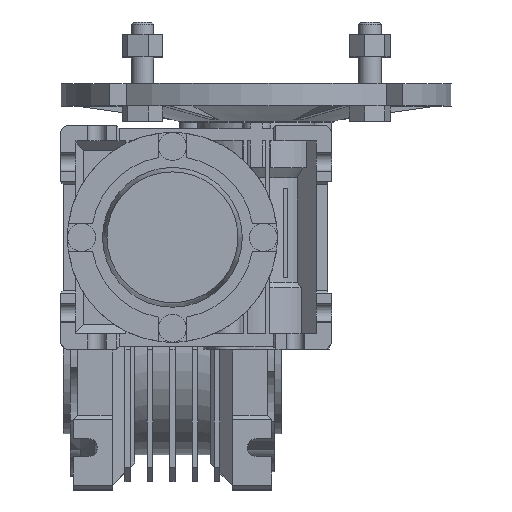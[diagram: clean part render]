
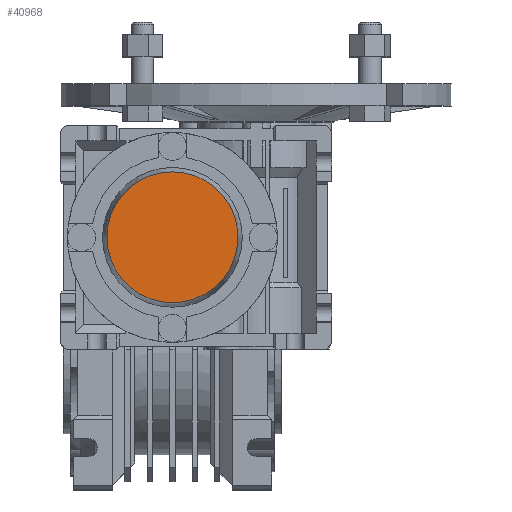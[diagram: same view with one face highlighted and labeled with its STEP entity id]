
A CAD part, top view. The second image highlights one B-rep face of the part: STEP entity #40968.
In plain terms, the highlighted planar face has unit normal (0, 0, 1) as drawn and (1, 0, 0) by its records, which use the part's own axes.
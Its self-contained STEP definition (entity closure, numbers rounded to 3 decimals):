
#1579=CIRCLE('',#43625,23.413);
#9330=ORIENTED_EDGE('',*,*,#14002,.T.);
#14002=EDGE_CURVE('',#16955,#16955,#1579,.T.);
#16955=VERTEX_POINT('',#60709);
#24940=EDGE_LOOP('',(#9330));
#26840=FACE_BOUND('',#24940,.T.);
#28154=PLANE('',#43626);
#40968=ADVANCED_FACE('',(#26840),#28154,.F.);
#43625=AXIS2_PLACEMENT_3D('',#60708,#51416,#51417);
#43626=AXIS2_PLACEMENT_3D('',#60710,#51418,#51419);
#51416=DIRECTION('',(1.,0.,0.));
#51417=DIRECTION('',(0.,0.,-1.));
#51418=DIRECTION('',(-1.,0.,0.));
#51419=DIRECTION('',(0.,0.,1.));
#60708=CARTESIAN_POINT('',(13.,0.,0.));
#60709=CARTESIAN_POINT('',(13.,0.,-23.413));
#60710=CARTESIAN_POINT('',(13.,23.413,0.));
